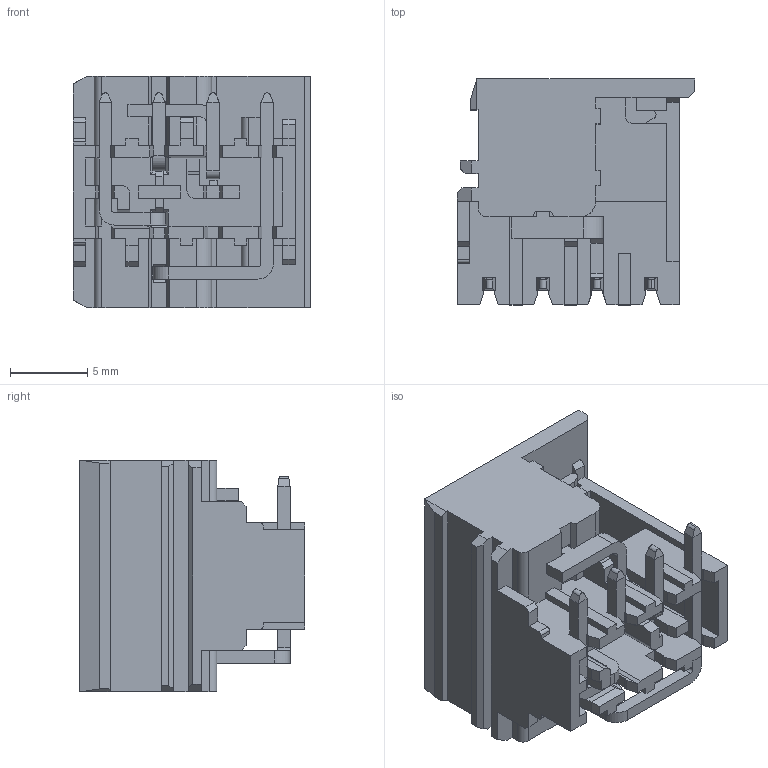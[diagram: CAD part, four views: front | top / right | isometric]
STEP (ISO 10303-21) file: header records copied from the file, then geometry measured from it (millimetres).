
FILE_DESCRIPTION((''),'2;1');
FILE_NAME('EU04P-R','2021-05-17T',('renkang.li'),(''),'CREO PARAMETRIC BY PTC INC, 2016260','CREO PARAMETRIC BY PTC INC, 2016260','');
FILE_SCHEMA(('CONFIG_CONTROL_DESIGN'));
Length unit declared in the file: millimetre
Products named in the file (1): EU04P-R
Bounding box: 15.35 x 14.6 x 15 mm (x, y, z)
Volume: 1102.5 mm3; surface area: 2845.6 mm2
Topology: 1 solids, 9 shells, 728 faces, 2088 edges, 1358 vertices
Faces by surface type: plane 667, cylinder 40, cone 13, torus 8
Entity records: 23703 total; most frequent: CARTESIAN_POINT 4602, ORIENTED_EDGE 4176, DIRECTION 3639, EDGE_CURVE 2088, VECTOR 1877, LINE 1877, VERTEX_POINT 1358, AXIS2_PLACEMENT_3D 881
